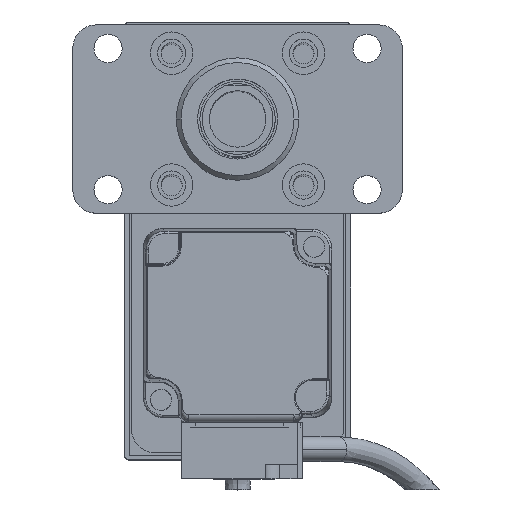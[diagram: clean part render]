
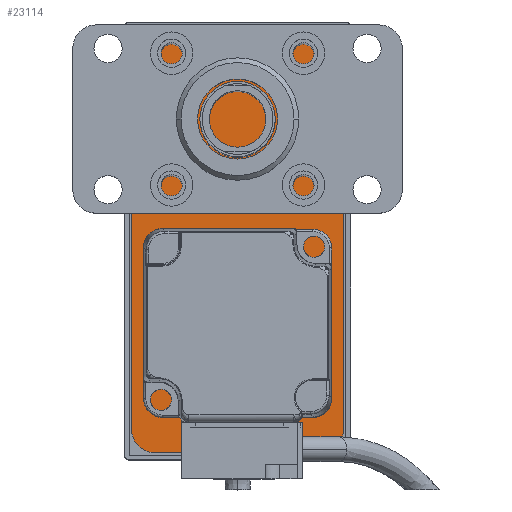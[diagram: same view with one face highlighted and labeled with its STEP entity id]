
A CAD part, top view. The second image highlights one B-rep face of the part: STEP entity #23114.
In plain terms, the highlighted planar face has unit normal (0, 0, 1).
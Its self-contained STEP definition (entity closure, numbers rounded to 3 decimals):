
#304 = CARTESIAN_POINT ( 'NONE',  ( -17.5, -45., 10. ) ) ;
#730 = CARTESIAN_POINT ( 'NONE',  ( -17.5, -40., 10. ) ) ;
#958 = DIRECTION ( 'NONE',  ( 0., 0., 1. ) ) ;
#1022 = CARTESIAN_POINT ( 'NONE',  ( 0., 0., 10. ) ) ;
#1302 = ORIENTED_EDGE ( 'NONE', *, *, #22510, .T. ) ;
#1624 = EDGE_CURVE ( 'NONE', #10727, #22589, #14628, .T. ) ;
#2352 = DIRECTION ( 'NONE',  ( 1., 0., 0. ) ) ;
#2384 = VECTOR ( 'NONE', #19127, 1000. ) ;
#2417 = LINE ( 'NONE', #24866, #11315 ) ;
#3083 = VECTOR ( 'NONE', #18575, 1000. ) ;
#3110 = AXIS2_PLACEMENT_3D ( 'NONE', #1022, #16303, #4853 ) ;
#3232 = CIRCLE ( 'NONE', #3776, 5. ) ;
#3448 = ORIENTED_EDGE ( 'NONE', *, *, #13121, .T. ) ;
#3776 = AXIS2_PLACEMENT_3D ( 'NONE', #730, #958, #23924 ) ;
#3911 = VERTEX_POINT ( 'NONE', #13129 ) ;
#3965 = DIRECTION ( 'NONE',  ( 0., 0., 1. ) ) ;
#4091 = DIRECTION ( 'NONE',  ( 0., -1., 0. ) ) ;
#4349 = VERTEX_POINT ( 'NONE', #13182 ) ;
#4853 = DIRECTION ( 'NONE',  ( 1., 0., 0. ) ) ;
#4952 = EDGE_CURVE ( 'NONE', #17479, #4349, #15412, .T. ) ;
#5005 = CIRCLE ( 'NONE', #11413, 5. ) ;
#5540 = DIRECTION ( 'NONE',  ( 1., 0., 0. ) ) ;
#5783 = CARTESIAN_POINT ( 'NONE',  ( -17.5, 45., 10. ) ) ;
#6530 = EDGE_CURVE ( 'NONE', #3911, #17479, #15925, .T. ) ;
#7452 = LINE ( 'NONE', #17192, #2384 ) ;
#8133 = ORIENTED_EDGE ( 'NONE', *, *, #6530, .T. ) ;
#8178 = DIRECTION ( 'NONE',  ( 0., 0., 1. ) ) ;
#8241 = CARTESIAN_POINT ( 'NONE',  ( 17.5, -45., 10. ) ) ;
#8537 = PLANE ( 'NONE',  #3110 ) ;
#8730 = ORIENTED_EDGE ( 'NONE', *, *, #23879, .T. ) ;
#10238 = AXIS2_PLACEMENT_3D ( 'NONE', #23160, #3965, #5540 ) ;
#10727 = VERTEX_POINT ( 'NONE', #304 ) ;
#11315 = VECTOR ( 'NONE', #4091, 1000. ) ;
#11413 = AXIS2_PLACEMENT_3D ( 'NONE', #15542, #8178, #2352 ) ;
#11728 = ORIENTED_EDGE ( 'NONE', *, *, #1624, .T. ) ;
#11943 = VECTOR ( 'NONE', #13227, 1000. ) ;
#12892 = VERTEX_POINT ( 'NONE', #21341 ) ;
#13121 = EDGE_CURVE ( 'NONE', #22589, #21080, #18833, .T. ) ;
#13129 = CARTESIAN_POINT ( 'NONE',  ( 17.5, 45., 10. ) ) ;
#13182 = CARTESIAN_POINT ( 'NONE',  ( -22.5, 40., 10. ) ) ;
#13227 = DIRECTION ( 'NONE',  ( 1., 0., 0. ) ) ;
#13357 = EDGE_CURVE ( 'NONE', #21080, #20027, #7452, .T. ) ;
#13456 = FACE_OUTER_BOUND ( 'NONE', #17779, .T. ) ;
#14628 = LINE ( 'NONE', #24788, #11943 ) ;
#15412 = CIRCLE ( 'NONE', #10238, 5. ) ;
#15542 = CARTESIAN_POINT ( 'NONE',  ( 17.5, 40., 10. ) ) ;
#15925 = LINE ( 'NONE', #24224, #3083 ) ;
#16303 = DIRECTION ( 'NONE',  ( 0., 0., 1. ) ) ;
#17192 = CARTESIAN_POINT ( 'NONE',  ( 22.5, -45., 10. ) ) ;
#17361 = ORIENTED_EDGE ( 'NONE', *, *, #24151, .T. ) ;
#17479 = VERTEX_POINT ( 'NONE', #5783 ) ;
#17779 = EDGE_LOOP ( 'NONE', ( #24302, #17361, #8133, #23574, #1302, #8730, #11728, #3448 ) ) ;
#18575 = DIRECTION ( 'NONE',  ( -1., 0., 0. ) ) ;
#18833 = CIRCLE ( 'NONE', #20121, 5. ) ;
#19127 = DIRECTION ( 'NONE',  ( 0., 1., 0. ) ) ;
#20027 = VERTEX_POINT ( 'NONE', #23096 ) ;
#20044 = CARTESIAN_POINT ( 'NONE',  ( 22.5, -40., 10. ) ) ;
#20121 = AXIS2_PLACEMENT_3D ( 'NONE', #22840, #24776, #24437 ) ;
#21080 = VERTEX_POINT ( 'NONE', #20044 ) ;
#21341 = CARTESIAN_POINT ( 'NONE',  ( -22.5, -40., 10. ) ) ;
#22510 = EDGE_CURVE ( 'NONE', #4349, #12892, #2417, .T. ) ;
#22589 = VERTEX_POINT ( 'NONE', #8241 ) ;
#22840 = CARTESIAN_POINT ( 'NONE',  ( 17.5, -40., 10. ) ) ;
#23096 = CARTESIAN_POINT ( 'NONE',  ( 22.5, 40., 10. ) ) ;
#23114 = ADVANCED_FACE ( 'NONE', ( #13456 ), #8537, .T. ) ;
#23160 = CARTESIAN_POINT ( 'NONE',  ( -17.5, 40., 10. ) ) ;
#23574 = ORIENTED_EDGE ( 'NONE', *, *, #4952, .T. ) ;
#23879 = EDGE_CURVE ( 'NONE', #12892, #10727, #3232, .T. ) ;
#23924 = DIRECTION ( 'NONE',  ( 1., 0., 0. ) ) ;
#24151 = EDGE_CURVE ( 'NONE', #20027, #3911, #5005, .T. ) ;
#24224 = CARTESIAN_POINT ( 'NONE',  ( 22.5, 45., 10. ) ) ;
#24302 = ORIENTED_EDGE ( 'NONE', *, *, #13357, .T. ) ;
#24437 = DIRECTION ( 'NONE',  ( 1., 0., 0. ) ) ;
#24776 = DIRECTION ( 'NONE',  ( 0., 0., 1. ) ) ;
#24788 = CARTESIAN_POINT ( 'NONE',  ( 22.5, -45., 10. ) ) ;
#24866 = CARTESIAN_POINT ( 'NONE',  ( -22.5, -45., 10. ) ) ;
